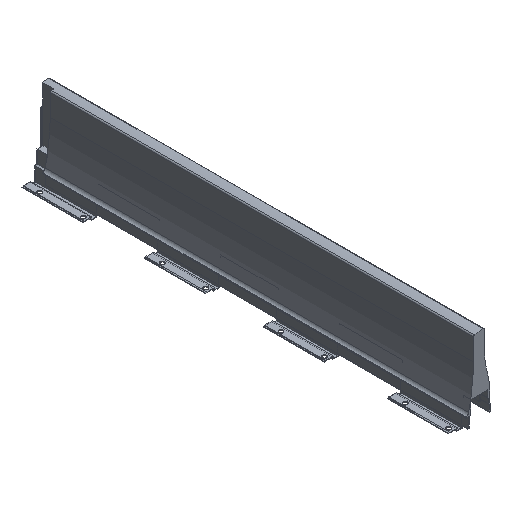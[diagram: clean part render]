
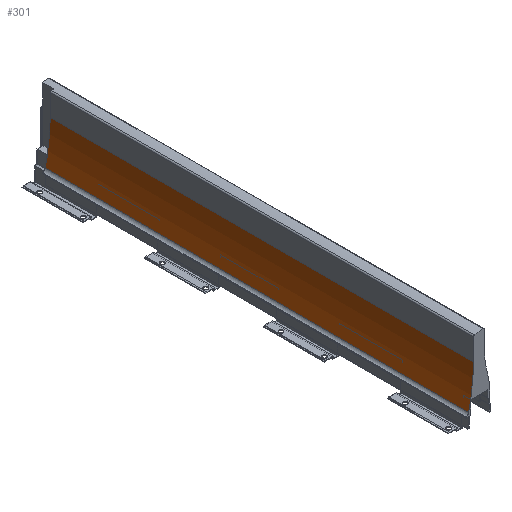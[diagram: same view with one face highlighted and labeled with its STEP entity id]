
A CAD part, isometric view. The second image highlights one B-rep face of the part: STEP entity #301.
In plain terms, the highlighted cylindrical face has radius 350 mm (diameter 700 mm), a partial arc.
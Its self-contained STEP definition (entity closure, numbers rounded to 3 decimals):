
#301 = ADVANCED_FACE ( 'NONE', ( #3415 ), #3413, .F. ) ;
#487 = VERTEX_POINT ( 'NONE', #1257 ) ;
#492 = VERTEX_POINT ( 'NONE', #1262 ) ;
#578 = VERTEX_POINT ( 'NONE', #1348 ) ;
#596 = VERTEX_POINT ( 'NONE', #1366 ) ;
#1019 = DIRECTION ( 'NONE',  ( 1., 0., 0. ) ) ;
#1020 = DIRECTION ( 'NONE',  ( 0., -1., 0. ) ) ;
#1021 = CARTESIAN_POINT ( 'NONE',  ( -369.736, 640., 58.528 ) ) ;
#1257 = CARTESIAN_POINT ( 'NONE',  ( -19.93, 623.8, 46.864 ) ) ;
#1262 = CARTESIAN_POINT ( 'NONE',  ( -27.279, 623.8, -13.745 ) ) ;
#1348 = CARTESIAN_POINT ( 'NONE',  ( -27.279, 0., -13.745 ) ) ;
#1366 = CARTESIAN_POINT ( 'NONE',  ( -19.93, 0., 46.864 ) ) ;
#1450 = CARTESIAN_POINT ( 'NONE',  ( -369.736, 0., 58.528 ) ) ;
#1451 = DIRECTION ( 'NONE',  ( 0., -1., 0. ) ) ;
#1452 = DIRECTION ( 'NONE',  ( -1., 0., 0. ) ) ;
#1481 = CARTESIAN_POINT ( 'NONE',  ( -27.279, 640., -13.745 ) ) ;
#1484 = DIRECTION ( 'NONE',  ( 0., -1., 0. ) ) ;
#2079 = CARTESIAN_POINT ( 'NONE',  ( -369.736, 623.8, 58.528 ) ) ;
#2090 = DIRECTION ( 'NONE',  ( 0., -1., 0. ) ) ;
#2091 = DIRECTION ( 'NONE',  ( -1., 0., 0. ) ) ;
#2374 = CARTESIAN_POINT ( 'NONE',  ( -19.93, 640., 46.864 ) ) ;
#2375 = DIRECTION ( 'NONE',  ( 0., -1., 0. ) ) ;
#2507 = CIRCLE ( 'NONE', #4593, 350. ) ;
#2753 = LINE ( 'NONE', #2374, #2754 ) ;
#2754 = VECTOR ( 'NONE', #2375, 1000. ) ;
#3318 = VECTOR ( 'NONE', #1484, 1000. ) ;
#3323 = LINE ( 'NONE', #1481, #3318 ) ;
#3344 = CIRCLE ( 'NONE', #4643, 350. ) ;
#3413 = CYLINDRICAL_SURFACE ( 'NONE', #4256, 350. ) ;
#3415 = FACE_OUTER_BOUND ( 'NONE', #3942, .T. ) ;
#3942 = EDGE_LOOP ( 'NONE', ( #4967, #4970, #4971, #4946 ) ) ;
#4060 = EDGE_CURVE ( 'NONE', #578, #596, #3344, .T. ) ;
#4085 = EDGE_CURVE ( 'NONE', #492, #578, #3323, .T. ) ;
#4256 = AXIS2_PLACEMENT_3D ( 'NONE', #1021, #1020, #1019 ) ;
#4511 = EDGE_CURVE ( 'NONE', #492, #487, #2507, .T. ) ;
#4593 = AXIS2_PLACEMENT_3D ( 'NONE', #2079, #2090, #2091 ) ;
#4643 = AXIS2_PLACEMENT_3D ( 'NONE', #1450, #1451, #1452 ) ;
#4704 = EDGE_CURVE ( 'NONE', #487, #596, #2753, .T. ) ;
#4946 = ORIENTED_EDGE ( 'NONE', *, *, #4704, .F. ) ;
#4967 = ORIENTED_EDGE ( 'NONE', *, *, #4511, .F. ) ;
#4970 = ORIENTED_EDGE ( 'NONE', *, *, #4085, .T. ) ;
#4971 = ORIENTED_EDGE ( 'NONE', *, *, #4060, .T. ) ;
